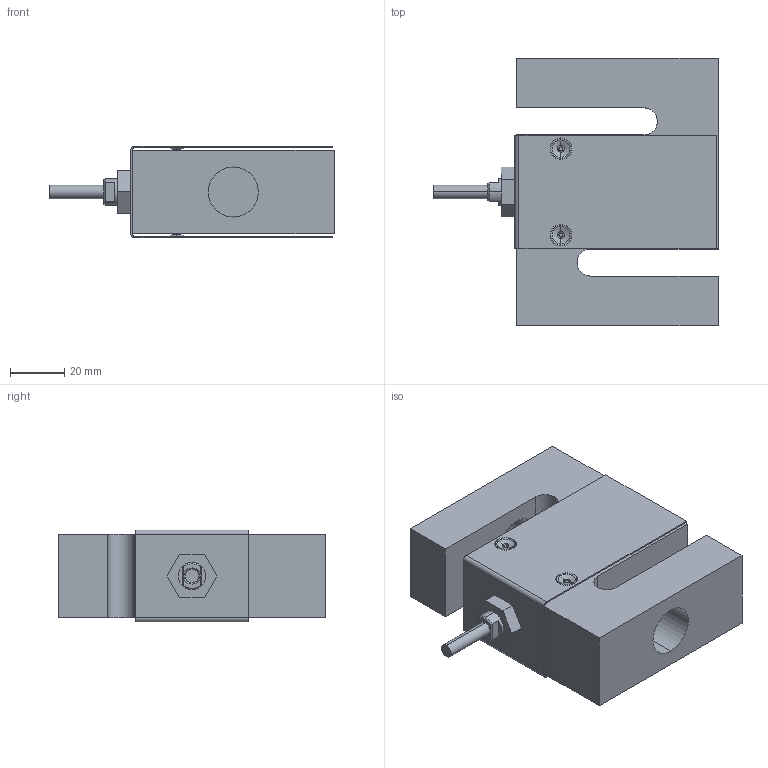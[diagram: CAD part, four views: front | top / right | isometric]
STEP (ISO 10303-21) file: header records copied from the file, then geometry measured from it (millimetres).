
FILE_DESCRIPTION (( 'STEP AP214' ), '1' );
FILE_NAME ('B3G-5t assy.STEP', '2012-01-27T09:06:02', ( 'Gebruiker' ), ( 'Microsoft' ), 'SwSTEP 2.0', 'SolidWorks 2011', '' );
FILE_SCHEMA (( 'AUTOMOTIVE_DESIGN' ));
Length unit declared in the file: millimetre
Products named in the file (9): hex thin nut gradeb_iso_Hexagon Nut ISO - 4036 - M10 - S; B3G conduit adaptor; B3G cable; B3G-5t gage potting; B3G-5t cover; Cover part indrukking; Cover 5t; B3G-5t element; B3G-5t assy
Assembly tree (12 placements, depth 3):
  B3G-5t assy
    B3G-5t element
    hex thin nut gradeb_iso_Hexagon Nut ISO - 4036 - M10 - S
    B3G-5t gage potting  x2
    B3G-5t cover
      Cover 5t
      Cover part indrukking  x4
    B3G conduit adaptor
    B3G cable
Bounding box: 105.18 x 99 x 34 mm (x, y, z)
Volume: 191751.4 mm3; surface area: 57635 mm2
Topology: 11 solids, 11 shells, 200 faces, 429 edges, 261 vertices
Faces by surface type: plane 64, cylinder 57, cone 47, torus 32
Entity records: 4484 total; most frequent: DIRECTION 784, CARTESIAN_POINT 688, ORIENTED_EDGE 642, EDGE_CURVE 321, AXIS2_PLACEMENT_3D 309, VERTEX_POINT 197, LINE 166, VECTOR 166
